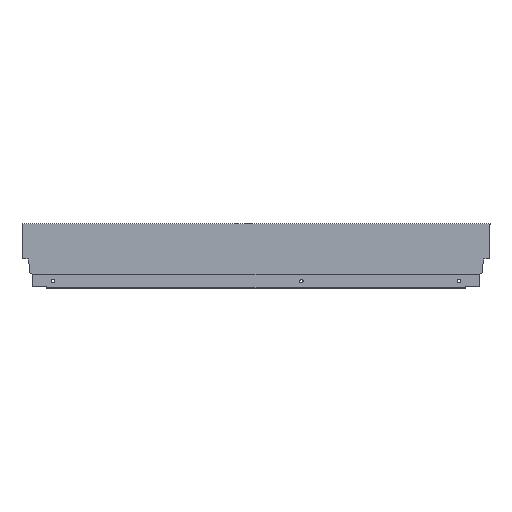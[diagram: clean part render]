
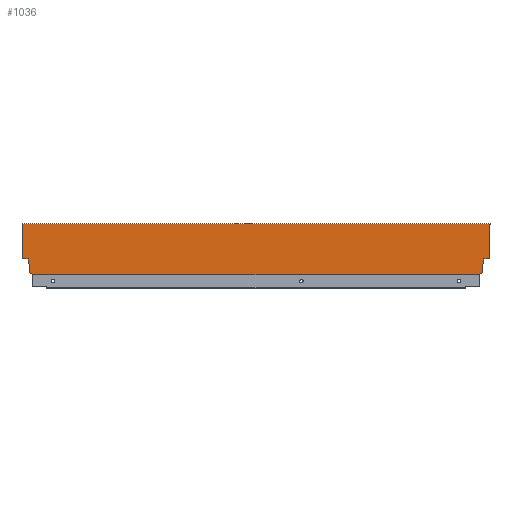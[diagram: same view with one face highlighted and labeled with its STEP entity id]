
A CAD part, top view. The second image highlights one B-rep face of the part: STEP entity #1036.
In plain terms, the highlighted planar face has unit normal (0, 0, 1).
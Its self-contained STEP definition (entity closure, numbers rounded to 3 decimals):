
#11 = CARTESIAN_POINT ( 'NONE',  ( -608.1, 2.64, 7.5 ) ) ;
#14 = CARTESIAN_POINT ( 'NONE',  ( -608.1, 10.765, 7.5 ) ) ;
#17 = CARTESIAN_POINT ( 'NONE',  ( -13.004, 1.146, 7.5 ) ) ;
#18 = CARTESIAN_POINT ( 'NONE',  ( -8.9, 10.765, 7.5 ) ) ;
#19 = CARTESIAN_POINT ( 'NONE',  ( -618., 66.5, 7.5 ) ) ;
#20 = CARTESIAN_POINT ( 'NONE',  ( -7.06, 21.2, 7.5 ) ) ;
#22 = CARTESIAN_POINT ( 'NONE',  ( -603.996, 1.146, 7.5 ) ) ;
#24 = CARTESIAN_POINT ( 'NONE',  ( 0., 21.2, 7.5 ) ) ;
#28 = CARTESIAN_POINT ( 'NONE',  ( -617., 66.5, 7.5 ) ) ;
#29 = CARTESIAN_POINT ( 'NONE',  ( -13.004, 0., 7.5 ) ) ;
#37 = CARTESIAN_POINT ( 'NONE',  ( -603.996, 0., 7.5 ) ) ;
#50 = CARTESIAN_POINT ( 'NONE',  ( 0., 66.5, 7.5 ) ) ;
#58 = CARTESIAN_POINT ( 'NONE',  ( -617., 21.2, 7.5 ) ) ;
#68 = CARTESIAN_POINT ( 'NONE',  ( -618., 68., 7.5 ) ) ;
#82 = CARTESIAN_POINT ( 'NONE',  ( 1., 66.5, 7.5 ) ) ;
#118 = VERTEX_POINT ( 'NONE', #82 ) ;
#132 = VERTEX_POINT ( 'NONE', #68 ) ;
#142 = VERTEX_POINT ( 'NONE', #58 ) ;
#150 = VERTEX_POINT ( 'NONE', #50 ) ;
#163 = VERTEX_POINT ( 'NONE', #37 ) ;
#171 = VERTEX_POINT ( 'NONE', #29 ) ;
#172 = VERTEX_POINT ( 'NONE', #28 ) ;
#176 = VERTEX_POINT ( 'NONE', #24 ) ;
#178 = VERTEX_POINT ( 'NONE', #22 ) ;
#180 = VERTEX_POINT ( 'NONE', #20 ) ;
#181 = VERTEX_POINT ( 'NONE', #19 ) ;
#182 = VERTEX_POINT ( 'NONE', #18 ) ;
#183 = VERTEX_POINT ( 'NONE', #17 ) ;
#186 = VERTEX_POINT ( 'NONE', #14 ) ;
#187 = VERTEX_POINT ( 'NONE', #197 ) ;
#188 = VERTEX_POINT ( 'NONE', #204 ) ;
#192 = VERTEX_POINT ( 'NONE', #207 ) ;
#195 = VERTEX_POINT ( 'NONE', #209 ) ;
#197 = CARTESIAN_POINT ( 'NONE',  ( -609.94, 21.2, 7.5 ) ) ;
#204 = CARTESIAN_POINT ( 'NONE',  ( -608.1, 2.64, 7.5 ) ) ;
#207 = CARTESIAN_POINT ( 'NONE',  ( 1., 68., 7.5 ) ) ;
#209 = CARTESIAN_POINT ( 'NONE',  ( -8.9, 2.64, 7.5 ) ) ;
#299 = CARTESIAN_POINT ( 'NONE',  ( 0., 0., 7.5 ) ) ;
#306 = DIRECTION ( 'NONE',  ( 0., -1., 0. ) ) ;
#436 = CARTESIAN_POINT ( 'NONE',  ( 0., 21.2, 7.5 ) ) ;
#442 = CARTESIAN_POINT ( 'NONE',  ( 1., 68., 7.5 ) ) ;
#443 = DIRECTION ( 'NONE',  ( 0., -1., 0. ) ) ;
#446 = CARTESIAN_POINT ( 'NONE',  ( 1., 66.5, 7.5 ) ) ;
#447 = DIRECTION ( 'NONE',  ( -1., 0., 0. ) ) ;
#448 = DIRECTION ( 'NONE',  ( 0., 1., 0. ) ) ;
#451 = CARTESIAN_POINT ( 'NONE',  ( -603.996, 1.146, 7.5 ) ) ;
#452 = DIRECTION ( 'NONE',  ( -1., 0., 0. ) ) ;
#455 = CARTESIAN_POINT ( 'NONE',  ( -7.06, 21.2, 7.5 ) ) ;
#456 = DIRECTION ( 'NONE',  ( -0.174, -0.985, 0. ) ) ;
#459 = CARTESIAN_POINT ( 'NONE',  ( -8.9, 10.765, 7.5 ) ) ;
#508 = EDGE_CURVE ( 'NONE', #150, #176, #1342, .T. ) ;
#572 = EDGE_CURVE ( 'NONE', #192, #118, #858, .T. ) ;
#574 = EDGE_CURVE ( 'NONE', #118, #150, #862, .T. ) ;
#576 = EDGE_CURVE ( 'NONE', #176, #180, #815, .T. ) ;
#578 = EDGE_CURVE ( 'NONE', #180, #182, #870, .T. ) ;
#580 = EDGE_CURVE ( 'NONE', #182, #195, #874, .T. ) ;
#581 = EDGE_CURVE ( 'NONE', #195, #183, #876, .T. ) ;
#582 = EDGE_CURVE ( 'NONE', #178, #188, #878, .T. ) ;
#583 = EDGE_CURVE ( 'NONE', #183, #171, #880, .T. ) ;
#584 = EDGE_CURVE ( 'NONE', #172, #142, #882, .T. ) ;
#585 = EDGE_CURVE ( 'NONE', #163, #178, #827, .T. ) ;
#586 = EDGE_CURVE ( 'NONE', #181, #132, #886, .T. ) ;
#587 = EDGE_CURVE ( 'NONE', #188, #186, #888, .T. ) ;
#589 = EDGE_CURVE ( 'NONE', #132, #192, #892, .T. ) ;
#590 = EDGE_CURVE ( 'NONE', #186, #187, #853, .T. ) ;
#591 = EDGE_CURVE ( 'NONE', #187, #142, #896, .T. ) ;
#593 = EDGE_CURVE ( 'NONE', #181, #172, #885, .T. ) ;
#595 = EDGE_CURVE ( 'NONE', #163, #171, #903, .T. ) ;
#664 = AXIS2_PLACEMENT_3D ( 'NONE', #1590, #1596, #1597 ) ;
#679 = ORIENTED_EDGE ( 'NONE', *, *, #591, .F. ) ;
#680 = ORIENTED_EDGE ( 'NONE', *, *, #589, .F. ) ;
#681 = ORIENTED_EDGE ( 'NONE', *, *, #586, .F. ) ;
#683 = ORIENTED_EDGE ( 'NONE', *, *, #572, .F. ) ;
#684 = ORIENTED_EDGE ( 'NONE', *, *, #574, .F. ) ;
#685 = ORIENTED_EDGE ( 'NONE', *, *, #587, .F. ) ;
#686 = ORIENTED_EDGE ( 'NONE', *, *, #590, .F. ) ;
#687 = ORIENTED_EDGE ( 'NONE', *, *, #595, .T. ) ;
#688 = ORIENTED_EDGE ( 'NONE', *, *, #585, .F. ) ;
#689 = ORIENTED_EDGE ( 'NONE', *, *, #582, .F. ) ;
#690 = ORIENTED_EDGE ( 'NONE', *, *, #580, .F. ) ;
#691 = ORIENTED_EDGE ( 'NONE', *, *, #581, .F. ) ;
#692 = ORIENTED_EDGE ( 'NONE', *, *, #583, .F. ) ;
#693 = ORIENTED_EDGE ( 'NONE', *, *, #508, .F. ) ;
#694 = ORIENTED_EDGE ( 'NONE', *, *, #576, .F. ) ;
#695 = ORIENTED_EDGE ( 'NONE', *, *, #578, .F. ) ;
#704 = ORIENTED_EDGE ( 'NONE', *, *, #593, .T. ) ;
#749 = ORIENTED_EDGE ( 'NONE', *, *, #584, .T. ) ;
#815 = LINE ( 'NONE', #436, #866 ) ;
#827 = LINE ( 'NONE', #451, #884 ) ;
#853 = LINE ( 'NONE', #1374, #894 ) ;
#858 = LINE ( 'NONE', #442, #859 ) ;
#859 = VECTOR ( 'NONE', #443, 1000. ) ;
#862 = LINE ( 'NONE', #446, #863 ) ;
#863 = VECTOR ( 'NONE', #447, 1000. ) ;
#866 = VECTOR ( 'NONE', #452, 1000. ) ;
#867 = VECTOR ( 'NONE', #1392, 1000. ) ;
#870 = LINE ( 'NONE', #455, #871 ) ;
#871 = VECTOR ( 'NONE', #456, 1000. ) ;
#874 = LINE ( 'NONE', #459, #875 ) ;
#875 = VECTOR ( 'NONE', #1676, 1000. ) ;
#876 = LINE ( 'NONE', #1677, #877 ) ;
#877 = VECTOR ( 'NONE', #1678, 1000. ) ;
#878 = LINE ( 'NONE', #11, #879 ) ;
#879 = VECTOR ( 'NONE', #1369, 1000. ) ;
#880 = LINE ( 'NONE', #1370, #881 ) ;
#881 = VECTOR ( 'NONE', #1371, 1000. ) ;
#882 = LINE ( 'NONE', #1372, #883 ) ;
#883 = VECTOR ( 'NONE', #1373, 1000. ) ;
#884 = VECTOR ( 'NONE', #448, 1000. ) ;
#885 = LINE ( 'NONE', #1391, #867 ) ;
#886 = LINE ( 'NONE', #1375, #887 ) ;
#887 = VECTOR ( 'NONE', #1376, 1000. ) ;
#888 = LINE ( 'NONE', #1377, #889 ) ;
#889 = VECTOR ( 'NONE', #1378, 1000. ) ;
#892 = LINE ( 'NONE', #1382, #893 ) ;
#893 = VECTOR ( 'NONE', #1383, 1000. ) ;
#894 = VECTOR ( 'NONE', #1385, 1000. ) ;
#896 = LINE ( 'NONE', #1386, #897 ) ;
#897 = VECTOR ( 'NONE', #1387, 1000. ) ;
#903 = LINE ( 'NONE', #1395, #904 ) ;
#904 = VECTOR ( 'NONE', #1396, 1000. ) ;
#973 = FACE_OUTER_BOUND ( 'NONE', #1253, .T. ) ;
#1036 = ADVANCED_FACE ( 'NONE', ( #973 ), #1587, .T. ) ;
#1253 = EDGE_LOOP ( 'NONE', ( #680, #681, #704, #749, #679, #686, #685, #689, #688, #687, #692, #691, #690, #695, #694, #693, #684, #683 ) ) ;
#1342 = LINE ( 'NONE', #299, #1351 ) ;
#1351 = VECTOR ( 'NONE', #306, 1000. ) ;
#1369 = DIRECTION ( 'NONE',  ( -0.94, 0.342, 0. ) ) ;
#1370 = CARTESIAN_POINT ( 'NONE',  ( -13.004, 1.146, 7.5 ) ) ;
#1371 = DIRECTION ( 'NONE',  ( 0., -1., 0. ) ) ;
#1372 = CARTESIAN_POINT ( 'NONE',  ( -617., 0., 7.5 ) ) ;
#1373 = DIRECTION ( 'NONE',  ( 0., -1., 0. ) ) ;
#1374 = CARTESIAN_POINT ( 'NONE',  ( -609.94, 21.2, 7.5 ) ) ;
#1375 = CARTESIAN_POINT ( 'NONE',  ( -618., 66.5, 7.5 ) ) ;
#1376 = DIRECTION ( 'NONE',  ( 0., 1., 0. ) ) ;
#1377 = CARTESIAN_POINT ( 'NONE',  ( -608.1, 10.765, 7.5 ) ) ;
#1378 = DIRECTION ( 'NONE',  ( 0., 1., 0. ) ) ;
#1382 = CARTESIAN_POINT ( 'NONE',  ( -617., 68., 7.5 ) ) ;
#1383 = DIRECTION ( 'NONE',  ( 1., 0., 0. ) ) ;
#1385 = DIRECTION ( 'NONE',  ( -0.174, 0.985, 0. ) ) ;
#1386 = CARTESIAN_POINT ( 'NONE',  ( -622., 21.2, 7.5 ) ) ;
#1387 = DIRECTION ( 'NONE',  ( -1., 0., 0. ) ) ;
#1391 = CARTESIAN_POINT ( 'NONE',  ( -618., 66.5, 7.5 ) ) ;
#1392 = DIRECTION ( 'NONE',  ( 1., 0., 0. ) ) ;
#1395 = CARTESIAN_POINT ( 'NONE',  ( -617., 0., 7.5 ) ) ;
#1396 = DIRECTION ( 'NONE',  ( 1., 0., 0. ) ) ;
#1587 = PLANE ( 'NONE',  #664 ) ;
#1590 = CARTESIAN_POINT ( 'NONE',  ( -617., 0., 7.5 ) ) ;
#1596 = DIRECTION ( 'NONE',  ( 0., 0., 1. ) ) ;
#1597 = DIRECTION ( 'NONE',  ( 1., 0., 0. ) ) ;
#1676 = DIRECTION ( 'NONE',  ( 0., -1., 0. ) ) ;
#1677 = CARTESIAN_POINT ( 'NONE',  ( -8.9, 2.64, 7.5 ) ) ;
#1678 = DIRECTION ( 'NONE',  ( -0.94, -0.342, 0. ) ) ;
